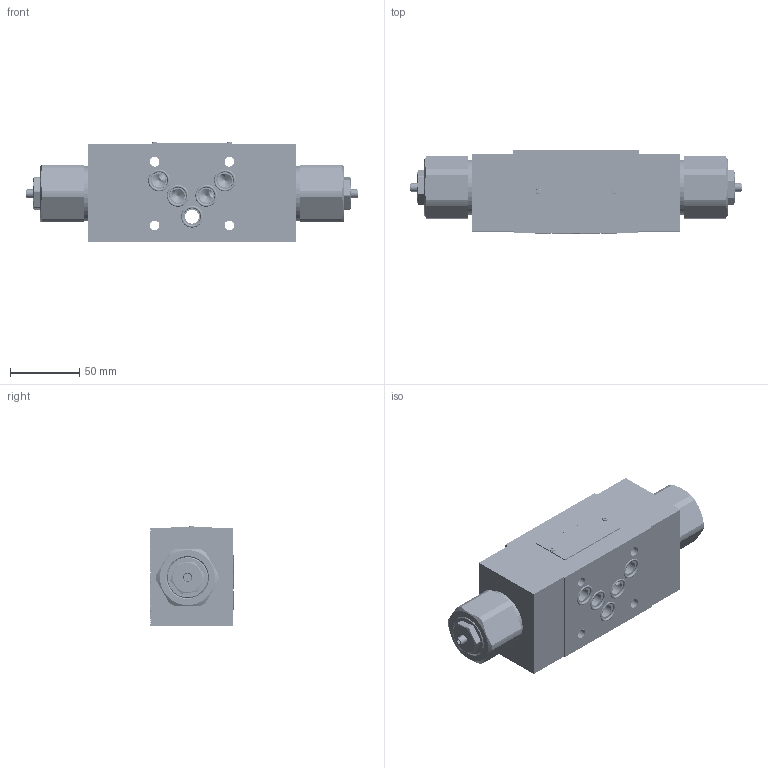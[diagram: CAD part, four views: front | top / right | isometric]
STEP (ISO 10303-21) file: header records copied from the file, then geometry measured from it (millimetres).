
FILE_DESCRIPTION(/* description */ (''),/* implementation_level */ '2;1');
FILE_NAME(/* name */ 'Z2FRM10C2-2X三维模型.stp',/* time_stamp */ '2023-03-25T09:08:03+08:00',/* author */ (''),/* organization */ (''),/* preprocessor_version */ 'ST-DEVELOPER v16.7',/* originating_system */ 'SIEMENS PLM Software NX 12.0',/* authorisation */ '');
FILE_SCHEMA (('AUTOMOTIVE_DESIGN { 1 0 10303 214 3 1 1 1 }'));
Products named in the file (1): Z2FRM10C2-2X三维装配图模型
Bounding box: 240 x 60 x 72.3 mm (x, y, z)
Volume: 154209.9 mm3; surface area: 177766.3 mm2
Topology: 73 solids, 284 shells, 1485 faces, 4119 edges, 3057 vertices
Faces by surface type: plane 801, cylinder 412, cone 168, bspline 56, torus 35, extrusion 13
Full cylindrical faces by diameter (mm): 1 x6, 1.5 x4, 1.8 x2, 2 x4, 2.5 x2, 3 x4, 4 x6, 5 x4, 6 x8, 6.6 x2, 7 x8, 8.8 x2, 9 x10, 9.5 x2, 10.5 x2, 10.7 x2, 10.8 x4, 11.4 x18, 12 x24, 12.2 x2, 12.5 x2, 13.3 x2, 15.3 x2, 15.5 x4, 16.5 x4, 19 x2, 19.4 x12, 19.8 x2, 20 x18, 20.5 x2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
Entity records: 95241 total; most frequent: CARTESIAN_POINT 59226, ORIENTED_EDGE 6292, DIRECTION 6007, EDGE_CURVE 3695, VERTEX_POINT 2999, AXIS2_PLACEMENT_3D 2339, EDGE_LOOP 2057, ADVANCED_FACE 1483
